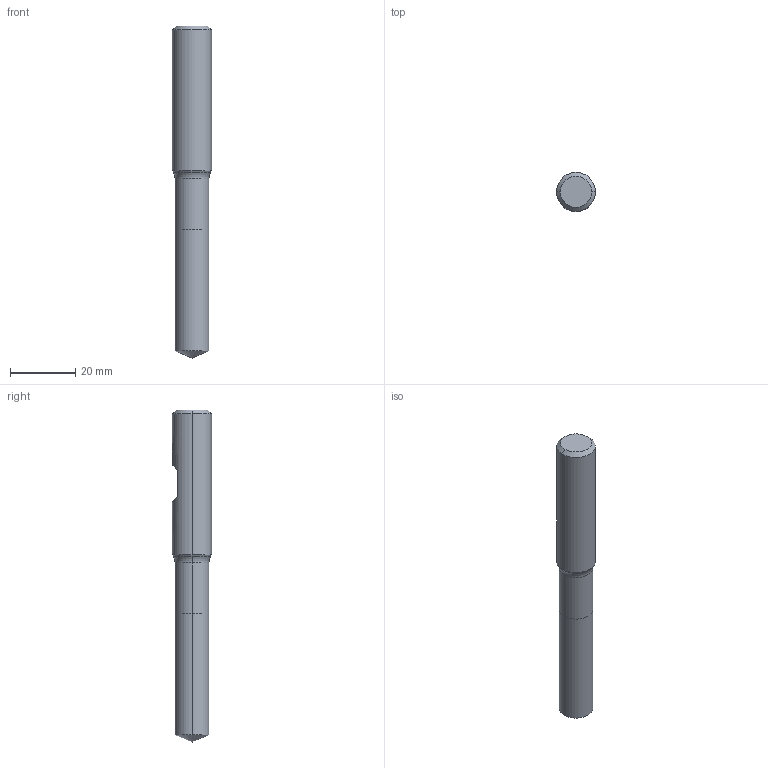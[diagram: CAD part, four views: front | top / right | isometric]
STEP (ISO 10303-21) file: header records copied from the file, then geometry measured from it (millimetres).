
FILE_DESCRIPTION (( 'STEP AP214' ), '1' );
FILE_NAME ('843.104.10_3D-model.step', '2022-02-24T03:21:41', ( '' ), ( '' ), 'SwSTEP 2.0', 'SolidWorks 2020', '' );
FILE_SCHEMA (( 'AUTOMOTIVE_DESIGN' ));
Length unit declared in the file: millimetre
Products named in the file (3): 843.104.10_3D-model; CUT-3D^Baugr79; NOCUT-3D^Baugr79
Assembly tree (2 placements, depth 2):
  843.104.10_3D-model
    CUT-3D^Baugr79
    NOCUT-3D^Baugr79
Bounding box: 12 x 12 x 102 mm (x, y, z)
Volume: 9710.3 mm3; surface area: 3842.6 mm2
Topology: 2 solids, 2 shells, 20 faces, 38 edges, 21 vertices
Faces by surface type: cone 6, cylinder 6, plane 6, torus 2
Entity records: 608 total; most frequent: DIRECTION 108, CARTESIAN_POINT 91, ORIENTED_EDGE 72, AXIS2_PLACEMENT_3D 46, EDGE_CURVE 36, VERTEX_POINT 21, EDGE_LOOP 21, ADVANCED_FACE 20
